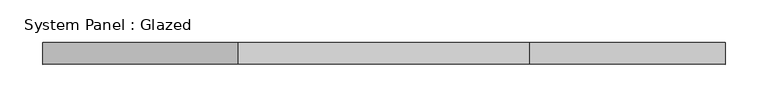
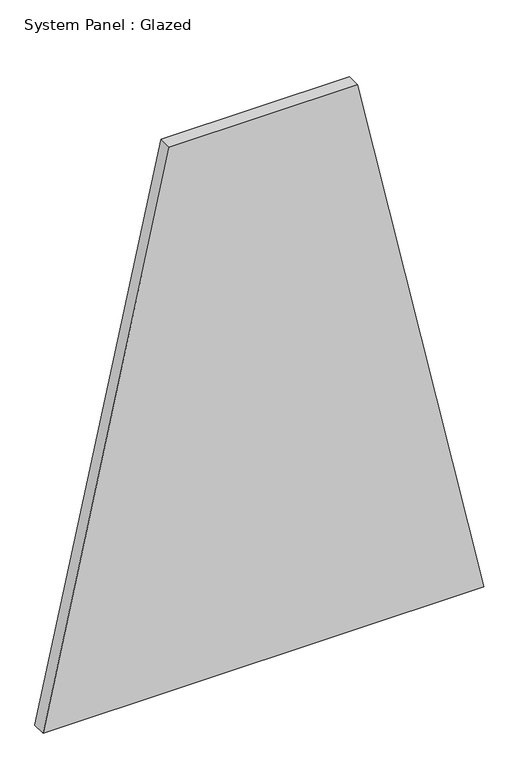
"""IFC4 building model written with IfcOpenShell, lengths in millimetres: plate geometry, System Panel : Glazed."""

from ifc_helpers import new_model, si_unit, frame, origin, place, context, project, spatial, polyline, outline, extrude, source, transform, mapped, element, save


def system_panel_glazed_8a0f5b20(model_context):
    return source(origin(), model_context, "Body", "SweptSolid", [
        extrude(outline(polyline([(0.0, -399.7385452), (0.0, 399.7385452), (1041.9112285, 170.6463543), (1041.9112285, -170.6463543), (0.0, -399.7385452)])), frame((0.0, -44.45, 0.0), z_axis=(0.0, 1.0, 0.0), x_axis=(0.0, 0.0, 1.0)), (0.0, 0.0, 1.0), 25.4),
    ])


if __name__ == "__main__":
    model = new_model("IFC4")
    model_context = context("Model", 3, world=origin())
    ifc_project = project(units=[si_unit("LENGTHUNIT", "METRE", prefix="MILLI")], contexts=[model_context])
    site = spatial("IfcSite", under=ifc_project)
    building = spatial("IfcBuilding", under=site)
    placement = place(None, origin())
    system_panel_glazed_shape = system_panel_glazed_8a0f5b20(model_context)
    element("IfcPlate", 1, ObjectType="System Panel : Glazed", at=placement, inside=building, context=model_context, shape_type="MappedRepresentation", body=[
        mapped(system_panel_glazed_shape, transform((0.0, 0.0, 0.0), x_axis=(1.0, 0.0, 0.0), y_axis=(0.0, 1.0, 0.0), z_axis=(0.0, 0.0, 1.0))),
    ])
    save(model, "model.ifc")
